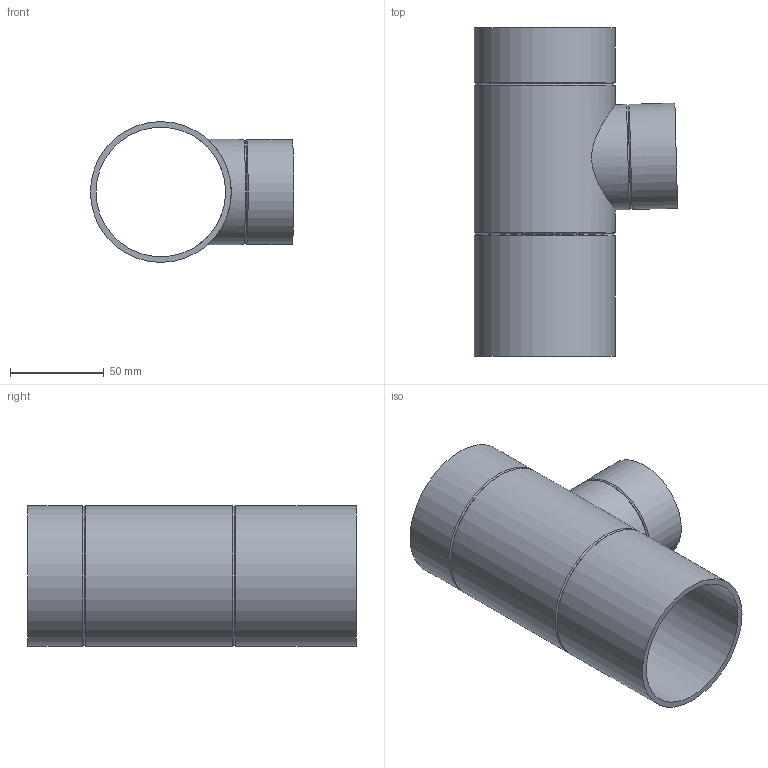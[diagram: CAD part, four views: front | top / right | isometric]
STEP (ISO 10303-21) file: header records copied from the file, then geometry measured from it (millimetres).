
FILE_DESCRIPTION(/* description */ (''),/* implementation_level */ '2;1');
FILE_NAME(/* name */ 'Z:\Geberit\Export\NewStep\365165.stp',/* time_stamp */ '2014-04-02T07:33:48+02:00',/* author */ ('nelson'),/* organization */ (''),/* preprocessor_version */ 'ST-DEVELOPER v15.2',/* originating_system */ 'Autodesk Inventor 2014',/* authorisation */ '');
FILE_SCHEMA (('AUTOMOTIVE_DESIGN { 1 0 10303 214 3 1 1 }'));
Length unit declared in the file: millimetre
Products named in the file (1): 365165
Bounding box: 108.21 x 175 x 75 mm (x, y, z)
Volume: 130869.3 mm3; surface area: 89742.9 mm2
Topology: 1 solids, 1 shells, 16 faces, 37 edges, 23 vertices
Faces by surface type: cylinder 7, cone 6, plane 3
Full cylindrical faces by diameter (mm): 50 x1, 56 x2, 69 x1, 75 x3
Entity records: 503 total; most frequent: CARTESIAN_POINT 181, DIRECTION 64, EDGE_LOOP 34, ORIENTED_EDGE 34, AXIS2_PLACEMENT_3D 32, FACE_BOUND 22, VERTEX_POINT 17, EDGE_CURVE 17
